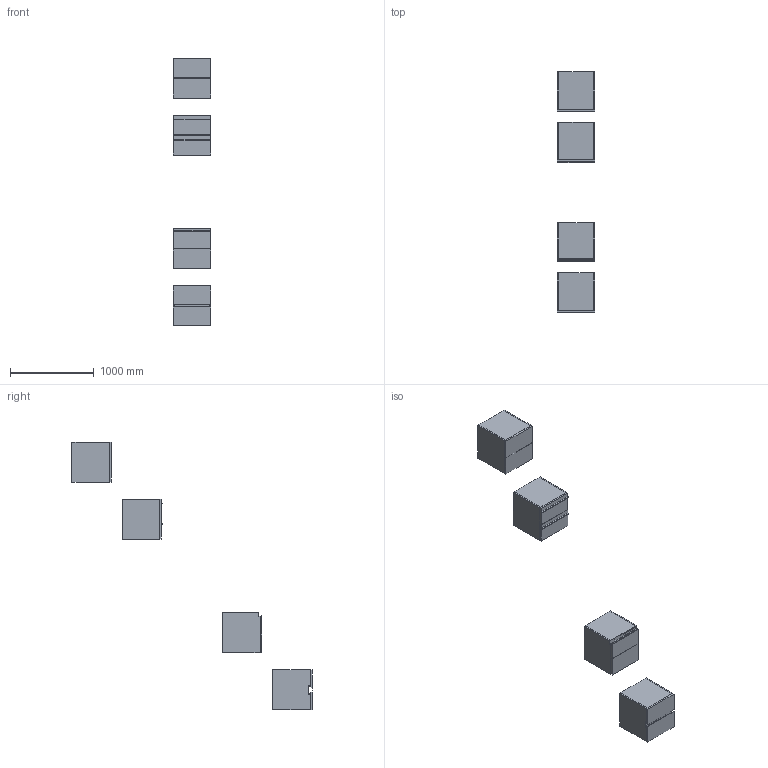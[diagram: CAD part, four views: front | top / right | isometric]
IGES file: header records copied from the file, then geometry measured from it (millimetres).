
Start section: Data from Parasolid IGES Translator 19.0.9, Copyright(c) 2006 Siemens PL M Software. All Rights Reserved.
Global section: file name: noorth-SI-H 48 D 47 W 45_8491.igs; native system: By Siemens PLM Incorporated; preprocessor: XPlus GENERIC/IGES 19.0.9; author: Noname; organization: Noname; date: 20200601.110104; units: metre
Bounding box: 452.66 x 2869.1 x 3200.01 mm (x, y, z)
Volume: 69151554.3 mm3; surface area: 10474568.6 mm2
Topology: 33 solids, 33 shells, 318 faces, 700 edges, 428 vertices
Faces by surface type: plane 230, extrusion 36, bspline 32, cylinder 20
